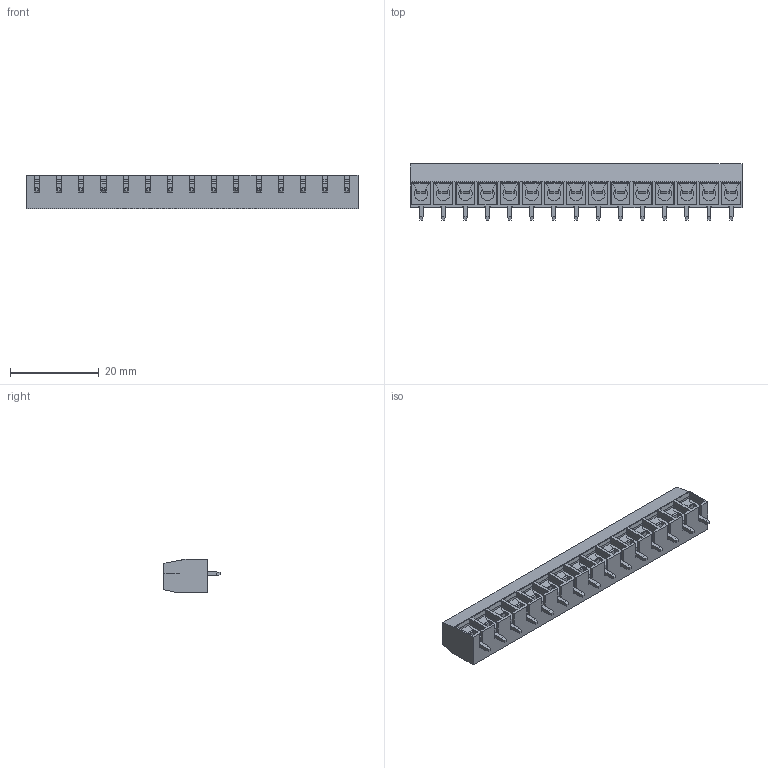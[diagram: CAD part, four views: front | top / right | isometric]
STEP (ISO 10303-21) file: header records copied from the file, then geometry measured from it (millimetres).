
FILE_DESCRIPTION((''),'2;1');
FILE_NAME('395930615','2015-02-25T',('me'),(''),'PRO/ENGINEER BY PARAMETRIC TECHNOLOGY CORPORATION, 2011490','PRO/ENGINEER BY PARAMETRIC TECHNOLOGY CORPORATION, 2011490','');
FILE_SCHEMA(('CONFIG_CONTROL_DESIGN'));
Length unit declared in the file: inch
Products named in the file (1): 395930615
Bounding box: 75.01 x 12.7 x 7.62 mm (x, y, z)
Volume: 4112.3 mm3; surface area: 5814.7 mm2
Topology: 1 solids, 1 shells, 909 faces, 2301 edges, 1484 vertices
Faces by surface type: plane 609, cylinder 120, torus 120, cone 30, bspline 30
Entity records: 27831 total; most frequent: CARTESIAN_POINT 5987, ORIENTED_EDGE 4482, DIRECTION 4451, EDGE_CURVE 2241, VECTOR 1551, LINE 1551, AXIS2_PLACEMENT_3D 1450, VERTEX_POINT 1394
